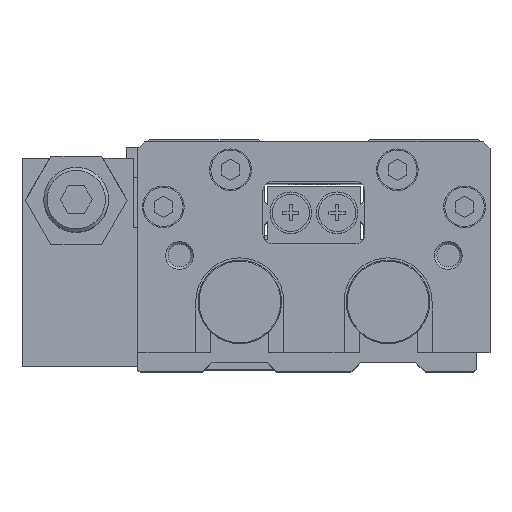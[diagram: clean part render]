
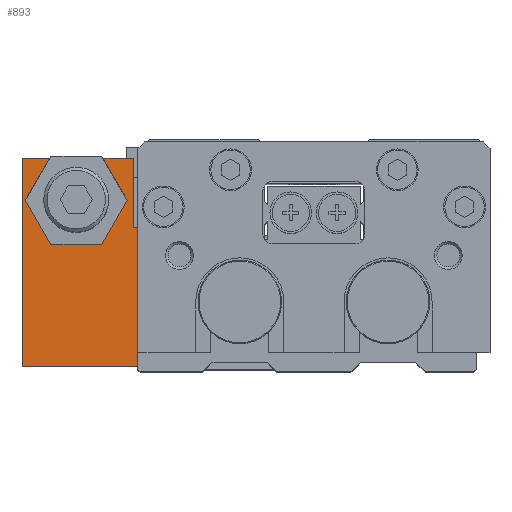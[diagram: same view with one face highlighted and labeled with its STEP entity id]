
A CAD part, top view. The second image highlights one B-rep face of the part: STEP entity #893.
In plain terms, the highlighted planar face has unit normal (0, 0, 1).
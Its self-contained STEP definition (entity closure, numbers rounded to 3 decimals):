
#893 = ADVANCED_FACE( '', ( #2260 ), #2261, .T. );
#2260 = FACE_OUTER_BOUND( '', #4336, .T. );
#2261 = PLANE( '', #4337 );
#4336 = EDGE_LOOP( '', ( #6807, #6808, #6809, #6810, #6811, #6812, #6813, #6814, #6815, #6816, #6817, #6818 ) );
#4337 = AXIS2_PLACEMENT_3D( '', #6819, #6820, #6821 );
#6807 = ORIENTED_EDGE( '', *, *, #11587, .T. );
#6808 = ORIENTED_EDGE( '', *, *, #11588, .F. );
#6809 = ORIENTED_EDGE( '', *, *, #11589, .F. );
#6810 = ORIENTED_EDGE( '', *, *, #11590, .F. );
#6811 = ORIENTED_EDGE( '', *, *, #11543, .F. );
#6812 = ORIENTED_EDGE( '', *, *, #11503, .F. );
#6813 = ORIENTED_EDGE( '', *, *, #11591, .T. );
#6814 = ORIENTED_EDGE( '', *, *, #11592, .T. );
#6815 = ORIENTED_EDGE( '', *, *, #11593, .T. );
#6816 = ORIENTED_EDGE( '', *, *, #11594, .T. );
#6817 = ORIENTED_EDGE( '', *, *, #11513, .T. );
#6818 = ORIENTED_EDGE( '', *, *, #11595, .T. );
#6819 = CARTESIAN_POINT( '', ( 0., 0., 6.5 ) );
#6820 = DIRECTION( '', ( 0., 0., 1. ) );
#6821 = DIRECTION( '', ( 1., 0., 0. ) );
#11503 = EDGE_CURVE( '', #13672, #13674, #13675, .T. );
#11513 = EDGE_CURVE( '', #13691, #13689, #13692, .T. );
#11543 = EDGE_CURVE( '', #13674, #13742, #13743, .T. );
#11587 = EDGE_CURVE( '', #13815, #13816, #13817, .T. );
#11588 = EDGE_CURVE( '', #13818, #13816, #13819, .T. );
#11589 = EDGE_CURVE( '', #13820, #13818, #13821, .T. );
#11590 = EDGE_CURVE( '', #13742, #13820, #13822, .T. );
#11591 = EDGE_CURVE( '', #13672, #13823, #13824, .T. );
#11592 = EDGE_CURVE( '', #13823, #13825, #13826, .T. );
#11593 = EDGE_CURVE( '', #13825, #13827, #13828, .T. );
#11594 = EDGE_CURVE( '', #13827, #13691, #13829, .T. );
#11595 = EDGE_CURVE( '', #13689, #13815, #13830, .T. );
#13672 = VERTEX_POINT( '', #16751 );
#13674 = VERTEX_POINT( '', #16754 );
#13675 = LINE( '', #16755, #16756 );
#13689 = VERTEX_POINT( '', #16776 );
#13691 = VERTEX_POINT( '', #16779 );
#13692 = LINE( '', #16780, #16781 );
#13742 = VERTEX_POINT( '', #16848 );
#13743 = LINE( '', #16849, #16850 );
#13815 = VERTEX_POINT( '', #16953 );
#13816 = VERTEX_POINT( '', #16954 );
#13817 = LINE( '', #16955, #16956 );
#13818 = VERTEX_POINT( '', #16957 );
#13819 = LINE( '', #16958, #16959 );
#13820 = VERTEX_POINT( '', #16960 );
#13821 = LINE( '', #16961, #16962 );
#13822 = LINE( '', #16963, #16964 );
#13823 = VERTEX_POINT( '', #16965 );
#13824 = LINE( '', #16966, #16967 );
#13825 = VERTEX_POINT( '', #16968 );
#13826 = LINE( '', #16969, #16970 );
#13827 = VERTEX_POINT( '', #16971 );
#13828 = LINE( '', #16972, #16973 );
#13829 = LINE( '', #16974, #16975 );
#13830 = LINE( '', #16976, #16977 );
#16751 = CARTESIAN_POINT( '', ( -5.926, 0., 6.5 ) );
#16754 = CARTESIAN_POINT( '', ( -0.73, 9., 6.5 ) );
#16755 = CARTESIAN_POINT( '', ( -6.215, -0.5, 6.5 ) );
#16756 = VECTOR( '', #20224, 1000. );
#16776 = CARTESIAN_POINT( '', ( -24., 15., 6.5 ) );
#16779 = CARTESIAN_POINT( '', ( -26., 15., 6.5 ) );
#16780 = CARTESIAN_POINT( '', ( -26., 15., 6.5 ) );
#16781 = VECTOR( '', #20232, 1000. );
#16848 = CARTESIAN_POINT( '', ( -6.215, 18.5, 6.5 ) );
#16849 = CARTESIAN_POINT( '', ( -0.73, 9., 6.5 ) );
#16850 = VECTOR( '', #20265, 1000. );
#16953 = CARTESIAN_POINT( '', ( -24., 0., 6.5 ) );
#16954 = CARTESIAN_POINT( '', ( -17.474, 0., 6.5 ) );
#16955 = CARTESIAN_POINT( '', ( -24., 0., 6.5 ) );
#16956 = VECTOR( '', #20303, 1000. );
#16957 = CARTESIAN_POINT( '', ( -22.67, 9., 6.5 ) );
#16958 = CARTESIAN_POINT( '', ( -22.67, 9., 6.5 ) );
#16959 = VECTOR( '', #20304, 1000. );
#16960 = CARTESIAN_POINT( '', ( -17.185, 18.5, 6.5 ) );
#16961 = CARTESIAN_POINT( '', ( -17.185, 18.5, 6.5 ) );
#16962 = VECTOR( '', #20305, 1000. );
#16963 = CARTESIAN_POINT( '', ( -6.215, 18.5, 6.5 ) );
#16964 = VECTOR( '', #20306, 1000. );
#16965 = CARTESIAN_POINT( '', ( 0., 0., 6.5 ) );
#16966 = CARTESIAN_POINT( '', ( -24., 0., 6.5 ) );
#16967 = VECTOR( '', #20307, 1000. );
#16968 = CARTESIAN_POINT( '', ( 0., 45., 6.5 ) );
#16969 = CARTESIAN_POINT( '', ( 0., 0., 6.5 ) );
#16970 = VECTOR( '', #20308, 1000. );
#16971 = CARTESIAN_POINT( '', ( -26., 45., 6.5 ) );
#16972 = CARTESIAN_POINT( '', ( 0., 45., 6.5 ) );
#16973 = VECTOR( '', #20309, 1000. );
#16974 = CARTESIAN_POINT( '', ( -26., 45., 6.5 ) );
#16975 = VECTOR( '', #20310, 1000. );
#16976 = CARTESIAN_POINT( '', ( -24., 15., 6.5 ) );
#16977 = VECTOR( '', #20311, 1000. );
#20224 = DIRECTION( '', ( 0.5, 0.866, 0. ) );
#20232 = DIRECTION( '', ( 1., 0., 0. ) );
#20265 = DIRECTION( '', ( -0.5, 0.866, 0. ) );
#20303 = DIRECTION( '', ( 1., 0., 0. ) );
#20304 = DIRECTION( '', ( 0.5, -0.866, 0. ) );
#20305 = DIRECTION( '', ( -0.5, -0.866, 0. ) );
#20306 = DIRECTION( '', ( -1., 0., 0. ) );
#20307 = DIRECTION( '', ( 1., 0., 0. ) );
#20308 = DIRECTION( '', ( 0., 1., 0. ) );
#20309 = DIRECTION( '', ( -1., 0., 0. ) );
#20310 = DIRECTION( '', ( 0., -1., 0. ) );
#20311 = DIRECTION( '', ( 0., -1., 0. ) );
